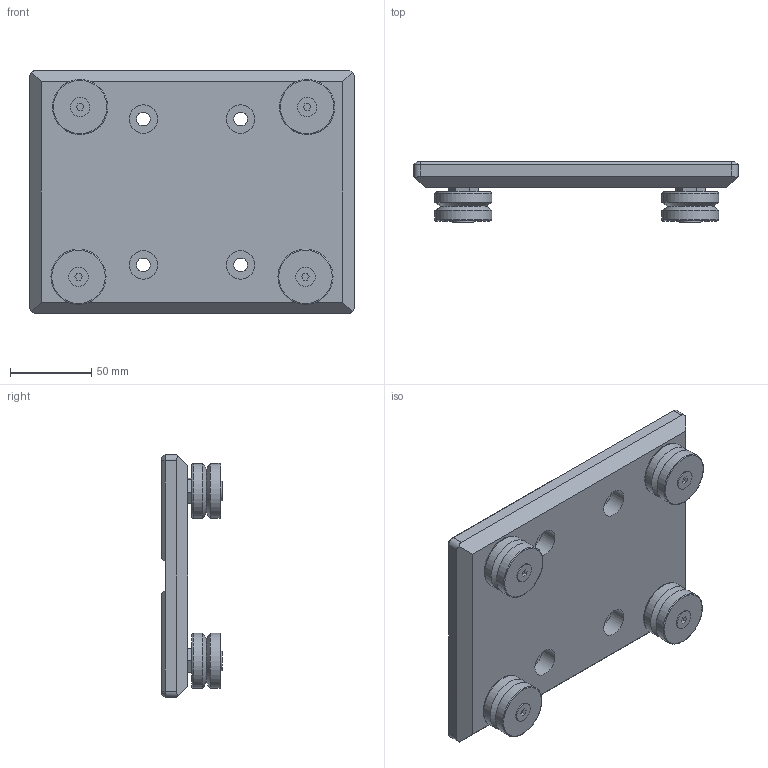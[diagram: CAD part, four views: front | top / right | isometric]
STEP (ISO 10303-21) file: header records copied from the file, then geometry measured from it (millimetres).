
FILE_DESCRIPTION(('STEP AP203'),'1');
FILE_NAME('//192.168.1.1/share/s-4 技術開発/s-4-4_CAD/s-4-4-3_見直し済み/RG 修正済み/RG_TOP/キャリッジプレート/RG-200(GF-76C).step','2022-03-28T02:35:56',(' '),(' '),'Spatial InterOp 3D',' ',' ');
FILE_SCHEMA(('CONFIG_CONTROL_DESIGN'));
Length unit declared in the file: millimetre
Products named in the file (13): 1; 2; 3; 4; 5; 6; 7; 8; 9; 10; 11; 12; 13
Bounding box: 200 x 37.3 x 150 mm (x, y, z)
Volume: 495037.6 mm3; surface area: 97538.4 mm2
Topology: 13 solids, 13 shells, 274 faces, 596 edges, 370 vertices
Faces by surface type: plane 150, cone 60, cylinder 52, torus 8, sphere 4
Full cylindrical faces by diameter (mm): 8.5 x8, 10 x12, 10.5 x4, 12 x4, 17.5 x4, 22 x4, 25 x4, 34 x8
Entity records: 7942 total; most frequent: CARTESIAN_POINT 1709, DIRECTION 1176, ORIENTED_EDGE 1036, EDGE_CURVE 518, AXIS2_PLACEMENT_3D 467, EDGE_LOOP 396, VERTEX_POINT 360, FACE_OUTER_BOUND 332
